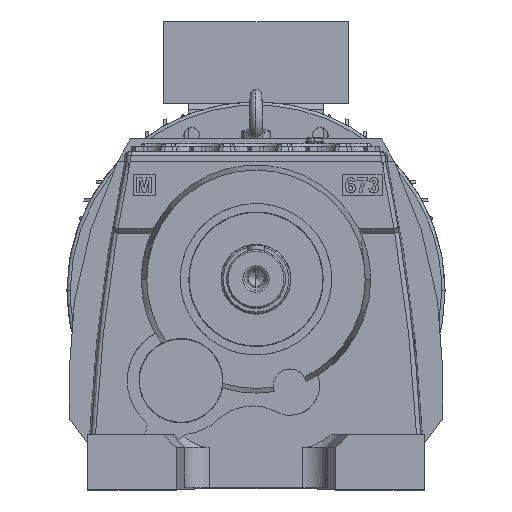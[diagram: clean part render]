
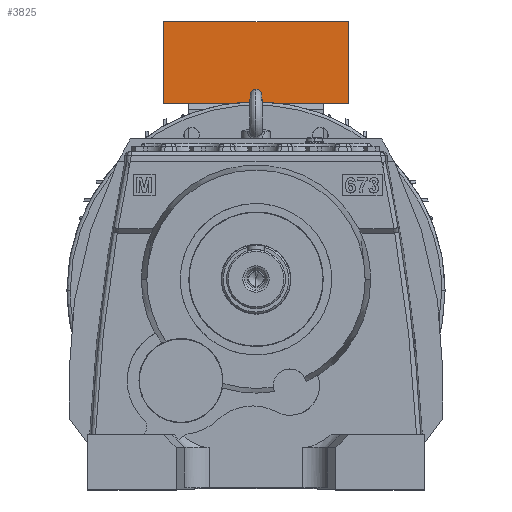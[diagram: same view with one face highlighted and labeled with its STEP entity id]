
A CAD part, top view. The second image highlights one B-rep face of the part: STEP entity #3825.
In plain terms, the highlighted planar face has unit normal (0, 0, 1).
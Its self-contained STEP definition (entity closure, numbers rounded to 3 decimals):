
#3825 = ADVANCED_FACE ( 'NONE', ( #49981 ), #54907, .F. ) ;
#8211 = CARTESIAN_POINT ( 'NONE',  ( 110., 320., -14.5 ) ) ;
#8216 = DIRECTION ( 'NONE',  ( 1., 0., 0. ) ) ;
#18144 = EDGE_CURVE ( 'NONE', #77425, #77386, #45220, .T. ) ;
#18162 = EDGE_CURVE ( 'NONE', #77479, #77464, #45204, .T. ) ;
#18170 = EDGE_CURVE ( 'NONE', #77479, #77386, #45167, .T. ) ;
#20301 = EDGE_CURVE ( 'NONE', #77464, #77425, #26369, .T. ) ;
#26340 = VECTOR ( 'NONE', #8216, 1000. ) ;
#26369 = LINE ( 'NONE', #8211, #26340 ) ;
#34842 = EDGE_LOOP ( 'NONE', ( #57974, #58039, #58070, #58094 ) ) ;
#35102 = CARTESIAN_POINT ( 'NONE',  ( -110., 320., -14.5 ) ) ;
#35139 = CARTESIAN_POINT ( 'NONE',  ( 110., 223., -14.5 ) ) ;
#35165 = CARTESIAN_POINT ( 'NONE',  ( 110., 320., -14.5 ) ) ;
#35251 = CARTESIAN_POINT ( 'NONE',  ( -110., 223., -14.5 ) ) ;
#45167 = LINE ( 'NONE', #53971, #45184 ) ;
#45184 = VECTOR ( 'NONE', #53976, 1000. ) ;
#45201 = VECTOR ( 'NONE', #53923, 1000. ) ;
#45204 = LINE ( 'NONE', #53925, #45201 ) ;
#45215 = VECTOR ( 'NONE', #53913, 1000. ) ;
#45220 = LINE ( 'NONE', #53910, #45215 ) ;
#49981 = FACE_OUTER_BOUND ( 'NONE', #34842, .T. ) ;
#53910 = CARTESIAN_POINT ( 'NONE',  ( 110., 320., -14.5 ) ) ;
#53913 = DIRECTION ( 'NONE',  ( 0., -1., 0. ) ) ;
#53923 = DIRECTION ( 'NONE',  ( 0., 1., 0. ) ) ;
#53925 = CARTESIAN_POINT ( 'NONE',  ( -110., 320., -14.5 ) ) ;
#53971 = CARTESIAN_POINT ( 'NONE',  ( 110., 223., -14.5 ) ) ;
#53976 = DIRECTION ( 'NONE',  ( 1., 0., 0. ) ) ;
#54873 = DIRECTION ( 'NONE',  ( 0., 0., -1. ) ) ;
#54883 = CARTESIAN_POINT ( 'NONE',  ( 110., 320., -14.5 ) ) ;
#54885 = DIRECTION ( 'NONE',  ( -1., 0., 0. ) ) ;
#54907 = PLANE ( 'NONE',  #74967 ) ;
#57974 = ORIENTED_EDGE ( 'NONE', *, *, #20301, .F. ) ;
#58039 = ORIENTED_EDGE ( 'NONE', *, *, #18162, .F. ) ;
#58070 = ORIENTED_EDGE ( 'NONE', *, *, #18170, .T. ) ;
#58094 = ORIENTED_EDGE ( 'NONE', *, *, #18144, .F. ) ;
#74967 = AXIS2_PLACEMENT_3D ( 'NONE', #54883, #54873, #54885 ) ;
#77386 = VERTEX_POINT ( 'NONE', #35139 ) ;
#77425 = VERTEX_POINT ( 'NONE', #35165 ) ;
#77464 = VERTEX_POINT ( 'NONE', #35102 ) ;
#77479 = VERTEX_POINT ( 'NONE', #35251 ) ;
